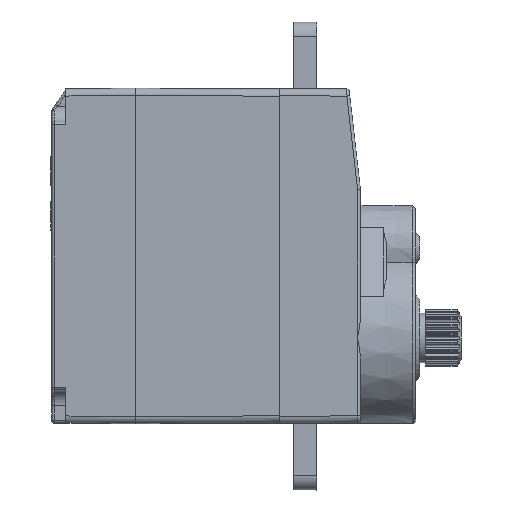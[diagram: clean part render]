
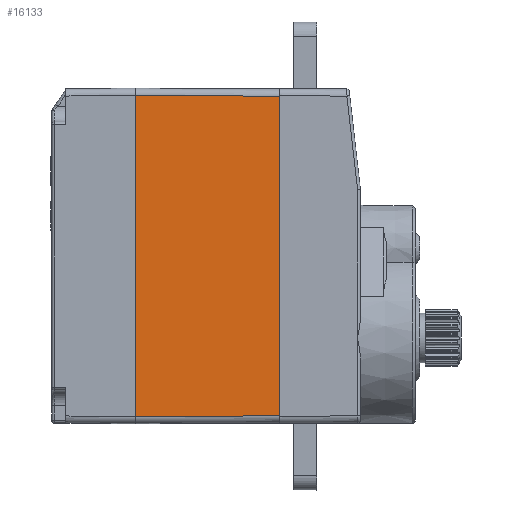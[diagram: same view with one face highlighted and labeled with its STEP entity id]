
A CAD part, left-side view. The second image highlights one B-rep face of the part: STEP entity #16133.
In plain terms, the highlighted planar face has unit normal (-1, -0.004, 0) as drawn and (-1, 0.004, 0) by its records, which use the part's own axes.
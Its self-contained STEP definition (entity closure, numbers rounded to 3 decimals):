
#1944=FACE_OUTER_BOUND('',#2868,.T.);
#2868=EDGE_LOOP('',(#11520,#11521,#11522,#11523));
#3835=LINE('',#24467,#5191);
#3875=LINE('',#24570,#5231);
#3956=LINE('',#24808,#5312);
#3957=LINE('',#24810,#5313);
#5191=VECTOR('',#19302,10.);
#5231=VECTOR('',#19372,10.);
#5312=VECTOR('',#19571,10.);
#5313=VECTOR('',#19574,10.);
#6600=VERTEX_POINT('',#24464);
#6601=VERTEX_POINT('',#24466);
#6648=VERTEX_POINT('',#24567);
#6649=VERTEX_POINT('',#24569);
#8377=EDGE_CURVE('',#6601,#6600,#3835,.T.);
#8430=EDGE_CURVE('',#6649,#6648,#3875,.T.);
#8544=EDGE_CURVE('',#6601,#6648,#3956,.T.);
#8545=EDGE_CURVE('',#6649,#6600,#3957,.T.);
#11520=ORIENTED_EDGE('',*,*,#8545,.F.);
#11521=ORIENTED_EDGE('',*,*,#8430,.T.);
#11522=ORIENTED_EDGE('',*,*,#8544,.F.);
#11523=ORIENTED_EDGE('',*,*,#8377,.T.);
#15649=PLANE('',#17267);
#16133=ADVANCED_FACE('',(#1944),#15649,.F.);
#17267=AXIS2_PLACEMENT_3D('',#24809,#19572,#19573);
#19302=DIRECTION('',(0.,0.,-1.));
#19372=DIRECTION('',(0.,0.,1.));
#19571=DIRECTION('',(-0.004,-1.,0.004));
#19572=DIRECTION('center_axis',(1.,-0.004,
0.));
#19573=DIRECTION('ref_axis',(0.,0.,-1.));
#19574=DIRECTION('',(0.004,1.,0.004));
#24464=CARTESIAN_POINT('',(-6.,15.2,-11.1));
#24466=CARTESIAN_POINT('',(-6.,15.2,11.1));
#24467=CARTESIAN_POINT('',(-6.,15.2,0.));
#24567=CARTESIAN_POINT('',(-6.044,5.2,11.144));
#24569=CARTESIAN_POINT('',(-6.044,5.2,-11.144));
#24570=CARTESIAN_POINT('',(-6.044,5.2,0.));
#24808=CARTESIAN_POINT('',(-6.,15.2,11.1));
#24809=CARTESIAN_POINT('Origin',(-6.022,10.2,0.));
#24810=CARTESIAN_POINT('',(-6.044,5.2,-11.144));
